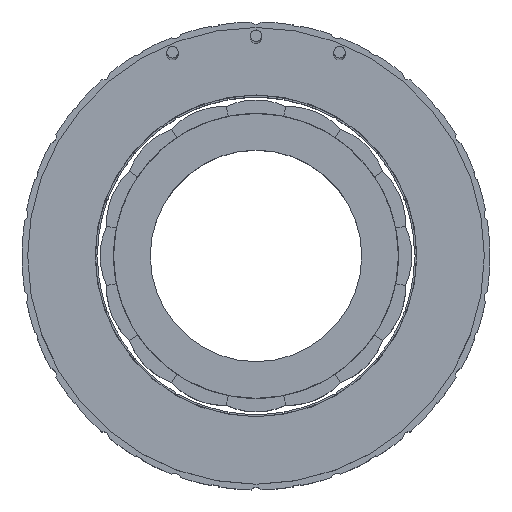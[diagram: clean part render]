
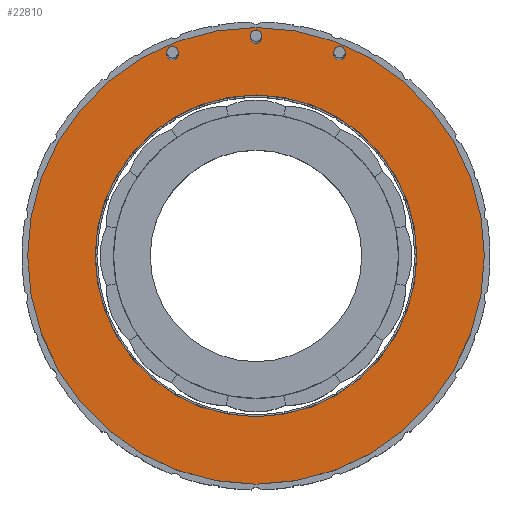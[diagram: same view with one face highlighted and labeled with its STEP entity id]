
A CAD part, top view. The second image highlights one B-rep face of the part: STEP entity #22810.
In plain terms, the highlighted planar face has unit normal (0, 0, 1).
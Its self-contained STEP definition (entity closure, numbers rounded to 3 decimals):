
#22 = CARTESIAN_POINT ( 'NONE',  ( 15.765, 65.543, 29.576 ) ) ;
#765 = DIRECTION ( 'NONE',  ( 0., 0., 1. ) ) ;
#913 = CARTESIAN_POINT ( 'NONE',  ( -21.355, 65.543, 29.576 ) ) ;
#954 = ORIENTED_EDGE ( 'NONE', *, *, #15912, .F. ) ;
#1102 = CIRCLE ( 'NONE', #15865, 50.75 ) ;
#1203 = DIRECTION ( 'NONE',  ( 0., 0., 1. ) ) ;
#1205 = VERTEX_POINT ( 'NONE', #11520 ) ;
#1724 = DIRECTION ( 'NONE',  ( 1., 0., 0. ) ) ;
#1748 = EDGE_LOOP ( 'NONE', ( #19900, #26380 ) ) ;
#2559 = CIRCLE ( 'NONE', #6808, 1.275 ) ;
#3480 = AXIS2_PLACEMENT_3D ( 'NONE', #26881, #16249, #26377 ) ;
#3812 = DIRECTION ( 'NONE',  ( 1., 0., 0. ) ) ;
#4141 = EDGE_LOOP ( 'NONE', ( #18318, #8913 ) ) ;
#4261 = DIRECTION ( 'NONE',  ( 0., 0., 1. ) ) ;
#4492 = EDGE_CURVE ( 'NONE', #19210, #1205, #17234, .T. ) ;
#4536 = AXIS2_PLACEMENT_3D ( 'NONE', #24720, #17104, #1724 ) ;
#4707 = EDGE_LOOP ( 'NONE', ( #954, #9253 ) ) ;
#5899 = DIRECTION ( 'NONE',  ( 1., 0., 0. ) ) ;
#6059 = CIRCLE ( 'NONE', #11363, 50.75 ) ;
#6808 = AXIS2_PLACEMENT_3D ( 'NONE', #21803, #12183, #17149 ) ;
#8913 = ORIENTED_EDGE ( 'NONE', *, *, #26922, .F. ) ;
#9015 = CARTESIAN_POINT ( 'NONE',  ( 34.23, 20.735, 29.576 ) ) ;
#9253 = ORIENTED_EDGE ( 'NONE', *, *, #29938, .F. ) ;
#9608 = VERTEX_POINT ( 'NONE', #30035 ) ;
#9892 = CARTESIAN_POINT ( 'NONE',  ( -2.795, 69.235, 29.576 ) ) ;
#10862 = ORIENTED_EDGE ( 'NONE', *, *, #26181, .T. ) ;
#10945 = CARTESIAN_POINT ( 'NONE',  ( -1.52, 20.735, 29.576 ) ) ;
#11363 = AXIS2_PLACEMENT_3D ( 'NONE', #31229, #765, #5899 ) ;
#11520 = CARTESIAN_POINT ( 'NONE',  ( -0.245, 69.235, 29.576 ) ) ;
#11857 = CIRCLE ( 'NONE', #4536, 35.75 ) ;
#11884 = ORIENTED_EDGE ( 'NONE', *, *, #24781, .F. ) ;
#12014 = FACE_BOUND ( 'NONE', #4141, .T. ) ;
#12183 = DIRECTION ( 'NONE',  ( 0., 0., 1. ) ) ;
#13150 = CARTESIAN_POINT ( 'NONE',  ( -1.52, 20.735, 29.576 ) ) ;
#13473 = EDGE_LOOP ( 'NONE', ( #29430, #11884 ) ) ;
#13857 = AXIS2_PLACEMENT_3D ( 'NONE', #14393, #32094, #3812 ) ;
#14393 = CARTESIAN_POINT ( 'NONE',  ( 17.04, 65.543, 29.576 ) ) ;
#15249 = EDGE_CURVE ( 'NONE', #21662, #9608, #6059, .T. ) ;
#15805 = CARTESIAN_POINT ( 'NONE',  ( -18.805, 65.543, 29.576 ) ) ;
#15865 = AXIS2_PLACEMENT_3D ( 'NONE', #10945, #21391, #28341 ) ;
#15912 = EDGE_CURVE ( 'NONE', #27124, #21387, #11857, .T. ) ;
#16249 = DIRECTION ( 'NONE',  ( 0., 0., 1. ) ) ;
#16455 = CARTESIAN_POINT ( 'NONE',  ( -20.08, 65.543, 29.576 ) ) ;
#16540 = AXIS2_PLACEMENT_3D ( 'NONE', #13150, #23254, #20774 ) ;
#16813 = PLANE ( 'NONE',  #31102 ) ;
#17104 = DIRECTION ( 'NONE',  ( 0., 0., 1. ) ) ;
#17149 = DIRECTION ( 'NONE',  ( 1., 0., 0. ) ) ;
#17234 = CIRCLE ( 'NONE', #3480, 1.275 ) ;
#17500 = VERTEX_POINT ( 'NONE', #15805 ) ;
#17596 = CIRCLE ( 'NONE', #16540, 35.75 ) ;
#18318 = ORIENTED_EDGE ( 'NONE', *, *, #28183, .F. ) ;
#18553 = AXIS2_PLACEMENT_3D ( 'NONE', #30745, #21312, #20808 ) ;
#19210 = VERTEX_POINT ( 'NONE', #9892 ) ;
#19312 = FACE_BOUND ( 'NONE', #13473, .T. ) ;
#19900 = ORIENTED_EDGE ( 'NONE', *, *, #22780, .F. ) ;
#20774 = DIRECTION ( 'NONE',  ( 1., 0., 0. ) ) ;
#20808 = DIRECTION ( 'NONE',  ( 1., 0., 0. ) ) ;
#21312 = DIRECTION ( 'NONE',  ( 0., 0., 1. ) ) ;
#21387 = VERTEX_POINT ( 'NONE', #9015 ) ;
#21391 = DIRECTION ( 'NONE',  ( 0., 0., 1. ) ) ;
#21602 = DIRECTION ( 'NONE',  ( 1., 0., 0. ) ) ;
#21662 = VERTEX_POINT ( 'NONE', #30812 ) ;
#21803 = CARTESIAN_POINT ( 'NONE',  ( 17.04, 65.543, 29.576 ) ) ;
#22028 = EDGE_LOOP ( 'NONE', ( #27906, #10862 ) ) ;
#22780 = EDGE_CURVE ( 'NONE', #31798, #25798, #2559, .T. ) ;
#22810 = ADVANCED_FACE ( 'NONE', ( #25084, #19312, #31894, #12014, #29413 ), #16813, .T. ) ;
#23254 = DIRECTION ( 'NONE',  ( 0., 0., 1. ) ) ;
#23283 = CIRCLE ( 'NONE', #31755, 1.275 ) ;
#23754 = CIRCLE ( 'NONE', #27469, 1.275 ) ;
#23888 = CARTESIAN_POINT ( 'NONE',  ( -1.52, 69.235, 29.576 ) ) ;
#23910 = CIRCLE ( 'NONE', #13857, 1.275 ) ;
#24096 = DIRECTION ( 'NONE',  ( 0., 0., 1. ) ) ;
#24609 = DIRECTION ( 'NONE',  ( 1., 0., 0. ) ) ;
#24720 = CARTESIAN_POINT ( 'NONE',  ( -1.52, 20.735, 29.576 ) ) ;
#24781 = EDGE_CURVE ( 'NONE', #1205, #19210, #23283, .T. ) ;
#25084 = FACE_BOUND ( 'NONE', #4707, .T. ) ;
#25402 = CIRCLE ( 'NONE', #18553, 1.275 ) ;
#25798 = VERTEX_POINT ( 'NONE', #31687 ) ;
#26181 = EDGE_CURVE ( 'NONE', #9608, #21662, #1102, .T. ) ;
#26377 = DIRECTION ( 'NONE',  ( 1., 0., 0. ) ) ;
#26380 = ORIENTED_EDGE ( 'NONE', *, *, #29171, .F. ) ;
#26881 = CARTESIAN_POINT ( 'NONE',  ( -1.52, 69.235, 29.576 ) ) ;
#26922 = EDGE_CURVE ( 'NONE', #17500, #31116, #23754, .T. ) ;
#26942 = CARTESIAN_POINT ( 'NONE',  ( -1.52, 20.735, 29.576 ) ) ;
#27124 = VERTEX_POINT ( 'NONE', #27542 ) ;
#27469 = AXIS2_PLACEMENT_3D ( 'NONE', #16455, #24096, #21602 ) ;
#27542 = CARTESIAN_POINT ( 'NONE',  ( -37.27, 20.735, 29.576 ) ) ;
#27906 = ORIENTED_EDGE ( 'NONE', *, *, #15249, .T. ) ;
#28183 = EDGE_CURVE ( 'NONE', #31116, #17500, #25402, .T. ) ;
#28341 = DIRECTION ( 'NONE',  ( 1., 0., 0. ) ) ;
#29171 = EDGE_CURVE ( 'NONE', #25798, #31798, #23910, .T. ) ;
#29413 = FACE_OUTER_BOUND ( 'NONE', #22028, .T. ) ;
#29430 = ORIENTED_EDGE ( 'NONE', *, *, #4492, .F. ) ;
#29938 = EDGE_CURVE ( 'NONE', #21387, #27124, #17596, .T. ) ;
#30035 = CARTESIAN_POINT ( 'NONE',  ( 49.23, 20.735, 29.576 ) ) ;
#30745 = CARTESIAN_POINT ( 'NONE',  ( -20.08, 65.543, 29.576 ) ) ;
#30812 = CARTESIAN_POINT ( 'NONE',  ( -52.27, 20.735, 29.576 ) ) ;
#31102 = AXIS2_PLACEMENT_3D ( 'NONE', #26942, #4261, #24609 ) ;
#31116 = VERTEX_POINT ( 'NONE', #913 ) ;
#31229 = CARTESIAN_POINT ( 'NONE',  ( -1.52, 20.735, 29.576 ) ) ;
#31647 = DIRECTION ( 'NONE',  ( 1., 0., 0. ) ) ;
#31687 = CARTESIAN_POINT ( 'NONE',  ( 18.315, 65.543, 29.576 ) ) ;
#31755 = AXIS2_PLACEMENT_3D ( 'NONE', #23888, #1203, #31647 ) ;
#31798 = VERTEX_POINT ( 'NONE', #22 ) ;
#31894 = FACE_BOUND ( 'NONE', #1748, .T. ) ;
#32094 = DIRECTION ( 'NONE',  ( 0., 0., 1. ) ) ;
